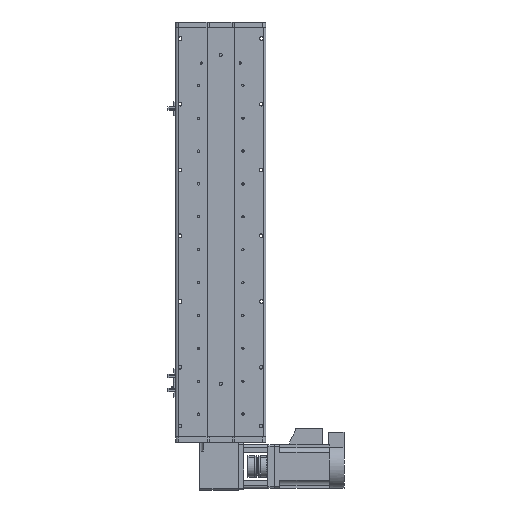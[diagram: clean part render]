
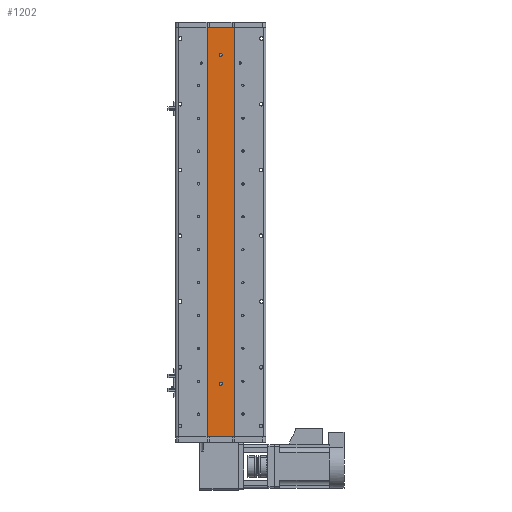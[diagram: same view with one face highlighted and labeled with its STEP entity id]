
A CAD part, front view. The second image highlights one B-rep face of the part: STEP entity #1202.
In plain terms, the highlighted planar face has unit normal (0, -1, 0).
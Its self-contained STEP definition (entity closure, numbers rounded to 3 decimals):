
#309 = CARTESIAN_POINT ( 'NONE',  ( 0., 1., -279.5 ) ) ;
#487 = LINE ( 'NONE', #26139, #45752 ) ;
#1202 = ADVANCED_FACE ( 'NONE', ( #17212, #44535, #36183 ), #10274, .F. ) ;
#2104 = ORIENTED_EDGE ( 'NONE', *, *, #42005, .F. ) ;
#2636 = CARTESIAN_POINT ( 'NONE',  ( 25., 1., -373.5 ) ) ;
#2773 = EDGE_LOOP ( 'NONE', ( #20971, #41885 ) ) ;
#3321 = AXIS2_PLACEMENT_3D ( 'NONE', #41363, #20032, #44971 ) ;
#4140 = AXIS2_PLACEMENT_3D ( 'NONE', #39595, #18232, #43130 ) ;
#4272 = CARTESIAN_POINT ( 'NONE',  ( 25., 1., 373.5 ) ) ;
#4678 = DIRECTION ( 'NONE',  ( 0., 0., -1. ) ) ;
#6188 = ORIENTED_EDGE ( 'NONE', *, *, #16475, .F. ) ;
#6220 = ORIENTED_EDGE ( 'NONE', *, *, #42605, .F. ) ;
#7853 = DIRECTION ( 'NONE',  ( 0., 0., -1. ) ) ;
#8146 = CIRCLE ( 'NONE', #3321, 3. ) ;
#8417 = EDGE_CURVE ( 'NONE', #30263, #31317, #14125, .T. ) ;
#9266 = CARTESIAN_POINT ( 'NONE',  ( 0., 1., 323.5 ) ) ;
#9488 = DIRECTION ( 'NONE',  ( 0., -1., 0. ) ) ;
#9499 = VERTEX_POINT ( 'NONE', #32583 ) ;
#10274 = PLANE ( 'NONE',  #4140 ) ;
#11557 = DIRECTION ( 'NONE',  ( 1., 0., 0. ) ) ;
#12634 = EDGE_LOOP ( 'NONE', ( #27402, #6188, #17678, #29968 ) ) ;
#12900 = DIRECTION ( 'NONE',  ( 0., 0., -1. ) ) ;
#13011 = VECTOR ( 'NONE', #11557, 1000. ) ;
#14125 = LINE ( 'NONE', #32902, #13011 ) ;
#15365 = CIRCLE ( 'NONE', #22757, 3. ) ;
#15563 = VECTOR ( 'NONE', #32296, 1000. ) ;
#15955 = VECTOR ( 'NONE', #7853, 1000. ) ;
#16475 = EDGE_CURVE ( 'NONE', #31317, #33935, #37190, .T. ) ;
#17212 = FACE_BOUND ( 'NONE', #32515, .T. ) ;
#17678 = ORIENTED_EDGE ( 'NONE', *, *, #8417, .F. ) ;
#18232 = DIRECTION ( 'NONE',  ( 0., 1., 0. ) ) ;
#18848 = DIRECTION ( 'NONE',  ( 0., -1., 0. ) ) ;
#20032 = DIRECTION ( 'NONE',  ( 0., -1., 0. ) ) ;
#20686 = VERTEX_POINT ( 'NONE', #40766 ) ;
#20971 = ORIENTED_EDGE ( 'NONE', *, *, #31661, .F. ) ;
#22757 = AXIS2_PLACEMENT_3D ( 'NONE', #9266, #34239, #12900 ) ;
#22917 = CARTESIAN_POINT ( 'NONE',  ( -25., 1., -373.5 ) ) ;
#25253 = CIRCLE ( 'NONE', #34254, 3. ) ;
#26139 = CARTESIAN_POINT ( 'NONE',  ( -25., 1., 373.5 ) ) ;
#27402 = ORIENTED_EDGE ( 'NONE', *, *, #31023, .T. ) ;
#29133 = EDGE_CURVE ( 'NONE', #9499, #45334, #25253, .T. ) ;
#29968 = ORIENTED_EDGE ( 'NONE', *, *, #33181, .T. ) ;
#30263 = VERTEX_POINT ( 'NONE', #35029 ) ;
#30914 = CARTESIAN_POINT ( 'NONE',  ( 0., 1., -276.5 ) ) ;
#31023 = EDGE_CURVE ( 'NONE', #46149, #33935, #44011, .T. ) ;
#31317 = VERTEX_POINT ( 'NONE', #41169 ) ;
#31661 = EDGE_CURVE ( 'NONE', #45334, #9499, #35600, .T. ) ;
#32296 = DIRECTION ( 'NONE',  ( 1., 0., 0. ) ) ;
#32515 = EDGE_LOOP ( 'NONE', ( #2104, #6220 ) ) ;
#32583 = CARTESIAN_POINT ( 'NONE',  ( 0., 1., -273.5 ) ) ;
#32902 = CARTESIAN_POINT ( 'NONE',  ( 25., 1., 373.5 ) ) ;
#33181 = EDGE_CURVE ( 'NONE', #30263, #46149, #487, .T. ) ;
#33935 = VERTEX_POINT ( 'NONE', #2636 ) ;
#34239 = DIRECTION ( 'NONE',  ( 0., -1., 0. ) ) ;
#34254 = AXIS2_PLACEMENT_3D ( 'NONE', #30914, #9488, #34478 ) ;
#34478 = DIRECTION ( 'NONE',  ( 0., 0., -1. ) ) ;
#35029 = CARTESIAN_POINT ( 'NONE',  ( -25., 1., 373.5 ) ) ;
#35600 = CIRCLE ( 'NONE', #36466, 3. ) ;
#35627 = CARTESIAN_POINT ( 'NONE',  ( 0., 1., 320.5 ) ) ;
#35912 = CARTESIAN_POINT ( 'NONE',  ( 25., 1., -373.5 ) ) ;
#36183 = FACE_OUTER_BOUND ( 'NONE', #12634, .T. ) ;
#36466 = AXIS2_PLACEMENT_3D ( 'NONE', #40198, #18848, #43758 ) ;
#37190 = LINE ( 'NONE', #4272, #15955 ) ;
#39595 = CARTESIAN_POINT ( 'NONE',  ( 25., 1., 373.5 ) ) ;
#40198 = CARTESIAN_POINT ( 'NONE',  ( 0., 1., -276.5 ) ) ;
#40766 = CARTESIAN_POINT ( 'NONE',  ( 0., 1., 326.5 ) ) ;
#41169 = CARTESIAN_POINT ( 'NONE',  ( 25., 1., 373.5 ) ) ;
#41265 = VERTEX_POINT ( 'NONE', #35627 ) ;
#41363 = CARTESIAN_POINT ( 'NONE',  ( 0., 1., 323.5 ) ) ;
#41885 = ORIENTED_EDGE ( 'NONE', *, *, #29133, .F. ) ;
#42005 = EDGE_CURVE ( 'NONE', #41265, #20686, #15365, .T. ) ;
#42605 = EDGE_CURVE ( 'NONE', #20686, #41265, #8146, .T. ) ;
#43130 = DIRECTION ( 'NONE',  ( 0., 0., 1. ) ) ;
#43758 = DIRECTION ( 'NONE',  ( 0., 0., -1. ) ) ;
#44011 = LINE ( 'NONE', #35912, #15563 ) ;
#44535 = FACE_BOUND ( 'NONE', #2773, .T. ) ;
#44971 = DIRECTION ( 'NONE',  ( 0., 0., -1. ) ) ;
#45334 = VERTEX_POINT ( 'NONE', #309 ) ;
#45752 = VECTOR ( 'NONE', #4678, 1000. ) ;
#46149 = VERTEX_POINT ( 'NONE', #22917 ) ;
